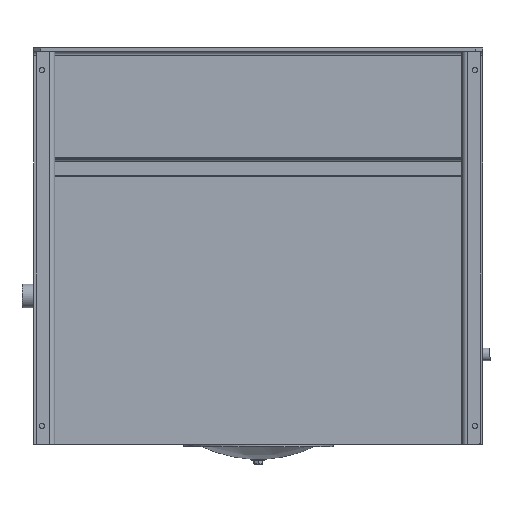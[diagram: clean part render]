
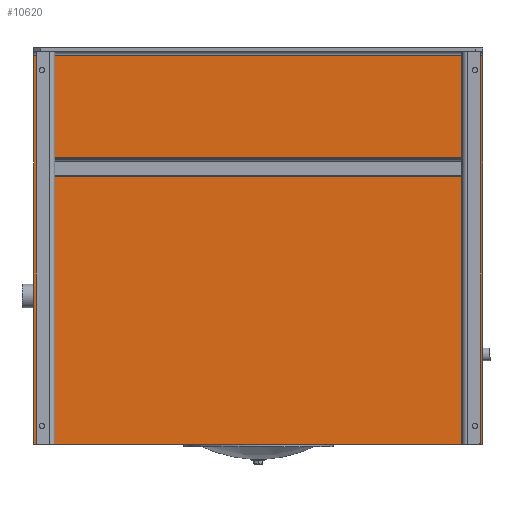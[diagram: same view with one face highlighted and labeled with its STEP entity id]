
A CAD part, front view. The second image highlights one B-rep face of the part: STEP entity #10620.
In plain terms, the highlighted planar face has unit normal (0, -1, 0).
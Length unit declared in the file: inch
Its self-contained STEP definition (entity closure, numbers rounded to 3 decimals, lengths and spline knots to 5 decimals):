
#358 = ORIENTED_EDGE ( 'NONE', *, *, #18112, .F. ) ;
#985 = DIRECTION ( 'NONE',  ( 0., -1., 0. ) ) ;
#1758 = DIRECTION ( 'NONE',  ( 1., 0., 0. ) ) ;
#2121 = LINE ( 'NONE', #21411, #12703 ) ;
#3567 = EDGE_CURVE ( 'NONE', #3574, #19517, #2121, .T. ) ;
#3574 = VERTEX_POINT ( 'NONE', #21296 ) ;
#4507 = FACE_OUTER_BOUND ( 'NONE', #21617, .T. ) ;
#4963 = LINE ( 'NONE', #9254, #17712 ) ;
#6452 = LINE ( 'NONE', #19268, #14773 ) ;
#7251 = VERTEX_POINT ( 'NONE', #13524 ) ;
#9254 = CARTESIAN_POINT ( 'NONE',  ( -28.29749, -2.4918, -16.98977 ) ) ;
#9834 = PLANE ( 'NONE',  #15891 ) ;
#10620 = ADVANCED_FACE ( 'NONE', ( #4507 ), #9834, .T. ) ;
#12111 = CARTESIAN_POINT ( 'NONE',  ( -28.29749, -2.4918, 24.54143 ) ) ;
#12703 = VECTOR ( 'NONE', #21838, 39.37008 ) ;
#12879 = DIRECTION ( 'NONE',  ( 0., 0., -1. ) ) ;
#13154 = DIRECTION ( 'NONE',  ( 0., 0., -1. ) ) ;
#13369 = ORIENTED_EDGE ( 'NONE', *, *, #20255, .F. ) ;
#13524 = CARTESIAN_POINT ( 'NONE',  ( 19.70251, -2.4918, 24.54143 ) ) ;
#14773 = VECTOR ( 'NONE', #12879, 39.37008 ) ;
#15514 = VECTOR ( 'NONE', #1758, 39.37008 ) ;
#15891 = AXIS2_PLACEMENT_3D ( 'NONE', #21123, #985, #13154 ) ;
#17461 = EDGE_CURVE ( 'NONE', #19517, #7251, #20347, .T. ) ;
#17712 = VECTOR ( 'NONE', #18970, 39.37008 ) ;
#18112 = EDGE_CURVE ( 'NONE', #7251, #20747, #6452, .T. ) ;
#18970 = DIRECTION ( 'NONE',  ( -1., 0., 0. ) ) ;
#19268 = CARTESIAN_POINT ( 'NONE',  ( 19.70251, -2.4918, 25.38523 ) ) ;
#19517 = VERTEX_POINT ( 'NONE', #21651 ) ;
#20156 = CARTESIAN_POINT ( 'NONE',  ( 19.70251, -2.4918, -16.98977 ) ) ;
#20255 = EDGE_CURVE ( 'NONE', #20747, #3574, #4963, .T. ) ;
#20347 = LINE ( 'NONE', #12111, #15514 ) ;
#20550 = ORIENTED_EDGE ( 'NONE', *, *, #3567, .F. ) ;
#20571 = ORIENTED_EDGE ( 'NONE', *, *, #17461, .F. ) ;
#20747 = VERTEX_POINT ( 'NONE', #20156 ) ;
#21123 = CARTESIAN_POINT ( 'NONE',  ( -28.29749, -2.4918, -16.98977 ) ) ;
#21296 = CARTESIAN_POINT ( 'NONE',  ( -28.29749, -2.4918, -16.98977 ) ) ;
#21411 = CARTESIAN_POINT ( 'NONE',  ( -28.29749, -2.4918, 25.38523 ) ) ;
#21617 = EDGE_LOOP ( 'NONE', ( #358, #20571, #20550, #13369 ) ) ;
#21651 = CARTESIAN_POINT ( 'NONE',  ( -28.29749, -2.4918, 24.54143 ) ) ;
#21838 = DIRECTION ( 'NONE',  ( 0., 0., 1. ) ) ;
